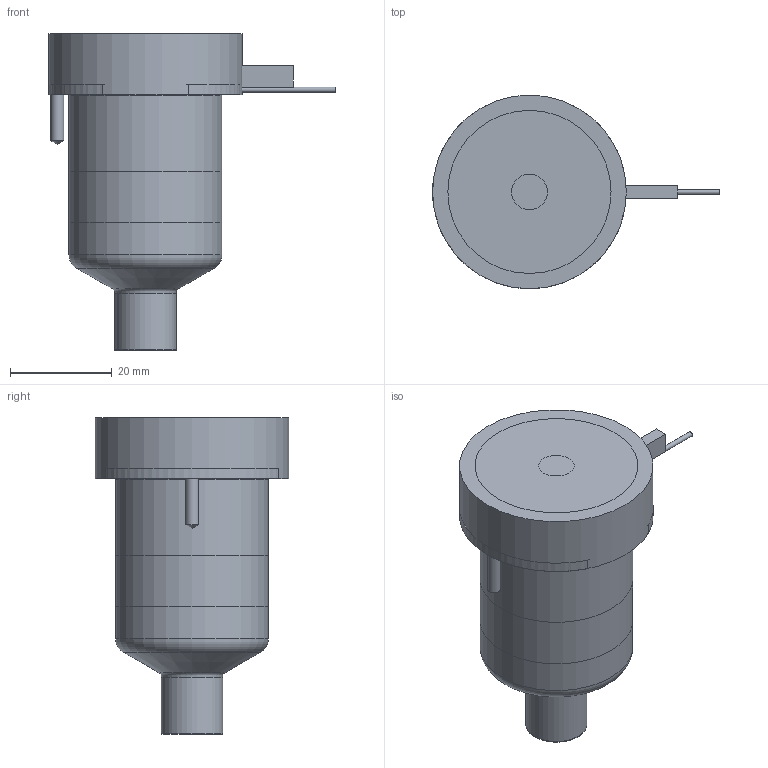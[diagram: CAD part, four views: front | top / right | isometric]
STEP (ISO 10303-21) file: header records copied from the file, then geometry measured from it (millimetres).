
FILE_DESCRIPTION(/* description */ (''),/* implementation_level */ '2;1');
FILE_NAME(/* name */ 'BXTVSN-BXIVSN-BXOVSN16045_200C_b',/* time_stamp */ '2007-01-18T10:03:21+13:00',/* author */ (''),/* organization */ (''),/* preprocessor_version */ 'ST-DEVELOPER v9',/* originating_system */ 'UGS - NX 4.0',/* authorisation */ '');
FILE_SCHEMA (('CONFIG_CONTROL_DESIGN'));
Length unit declared in the file: millimetre
Products named in the file (1): BXTVSN-BXIVSN-BXOVSN16045_200C_b
Bounding box: 56.25 x 38 x 62.13 mm (x, y, z)
Volume: 78670.6 mm3; surface area: 17614.4 mm2
Topology: 6 solids, 6 shells, 76 faces, 151 edges, 97 vertices
Faces by surface type: plane 35, cylinder 23, cone 10, torus 7, bspline 1
Full cylindrical faces by diameter (mm): 1 x3, 2.5 x3, 7 x1, 11.61 x1, 12.01 x2, 14.8 x1, 25.4 x1, 30 x2, 38 x1
Entity records: 1892 total; most frequent: CARTESIAN_POINT 374, DIRECTION 318, ORIENTED_EDGE 224, AXIS2_PLACEMENT_3D 140, EDGE_LOOP 116, EDGE_CURVE 112, VERTEX_POINT 89, ADVANCED_FACE 76
